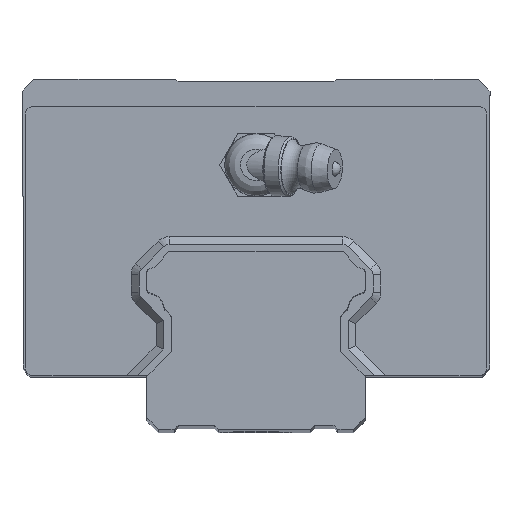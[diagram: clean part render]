
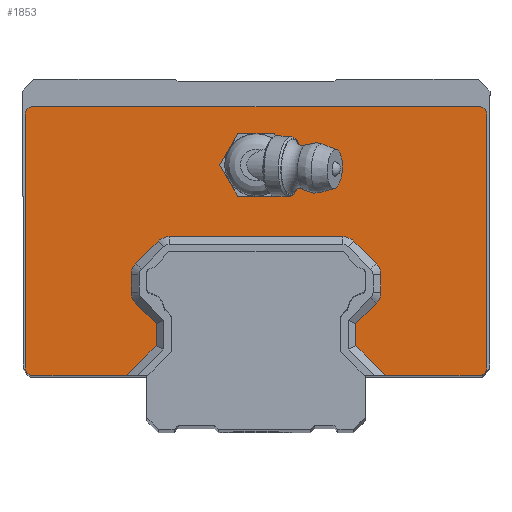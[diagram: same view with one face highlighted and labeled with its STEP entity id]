
A CAD part, top view. The second image highlights one B-rep face of the part: STEP entity #1853.
In plain terms, the highlighted planar face has unit normal (0, 0, 1).
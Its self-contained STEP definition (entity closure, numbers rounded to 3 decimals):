
#1613=CARTESIAN_POINT('',(3.,14.95,52.462));
#1614=VERTEX_POINT('',#1613);
#1615=CARTESIAN_POINT('',(0.,14.95,52.462));
#1616=DIRECTION('',(0.0,0.0,1.0));
#1617=DIRECTION('',(1.0,0.0,0.0));
#1618=AXIS2_PLACEMENT_3D('',#1615,#1616,#1617);
#1619=CIRCLE('',#1618,3.);
#1620=EDGE_CURVE('',#1614,#1614,#1619,.T.);
#1625=CARTESIAN_POINT('',(0.,-48.237,52.462));
#1626=DIRECTION('',(0.0,0.0,1.0));
#1627=DIRECTION('',(1.0,0.0,0.0));
#1628=AXIS2_PLACEMENT_3D('',#1625,#1626,#1627);
#1629=PLANE('',#1628);
#1630=CARTESIAN_POINT('',(-28.6,-12.05,52.462));
#1631=VERTEX_POINT('',#1630);
#1632=CARTESIAN_POINT('',(-16.628,-12.05,52.462));
#1633=VERTEX_POINT('',#1632);
#1634=CARTESIAN_POINT('',(-28.6,-12.05,52.462));
#1635=DIRECTION('',(1.0,0.0,0.0));
#1636=VECTOR('',#1635,11.972);
#1637=LINE('',#1634,#1636);
#1638=EDGE_CURVE('',#1631,#1633,#1637,.T.);
#1639=ORIENTED_EDGE('',*,*,#1638,.T.);
#1640=CARTESIAN_POINT('',(-12.8,-8.222,52.462));
#1641=VERTEX_POINT('',#1640);
#1642=CARTESIAN_POINT('',(-16.628,-12.05,52.462));
#1643=DIRECTION('',(0.707,0.707,0.0));
#1644=VECTOR('',#1643,5.414);
#1645=LINE('',#1642,#1644);
#1646=EDGE_CURVE('',#1633,#1641,#1645,.T.);
#1647=ORIENTED_EDGE('',*,*,#1646,.T.);
#1648=CARTESIAN_POINT('',(-12.8,-5.378,52.462));
#1649=VERTEX_POINT('',#1648);
#1650=CARTESIAN_POINT('',(-12.8,-8.222,52.462));
#1651=DIRECTION('',(0.0,1.0,0.0));
#1652=VECTOR('',#1651,2.843);
#1653=LINE('',#1650,#1652);
#1654=EDGE_CURVE('',#1641,#1649,#1653,.T.);
#1655=ORIENTED_EDGE('',*,*,#1654,.T.);
#1656=CARTESIAN_POINT('',(-15.414,-2.764,52.462));
#1657=VERTEX_POINT('',#1656);
#1658=CARTESIAN_POINT('',(-12.8,-5.378,52.462));
#1659=DIRECTION('',(-0.707,0.707,0.0));
#1660=VECTOR('',#1659,3.697);
#1661=LINE('',#1658,#1660);
#1662=EDGE_CURVE('',#1649,#1657,#1661,.T.);
#1663=ORIENTED_EDGE('',*,*,#1662,.T.);
#1664=CARTESIAN_POINT('',(-16.,-1.35,52.462));
#1665=VERTEX_POINT('',#1664);
#1666=CARTESIAN_POINT('',(-14.,-1.35,52.462));
#1667=DIRECTION('',(0.0,0.0,-1.0));
#1668=DIRECTION('',(1.0,0.0,0.0));
#1669=AXIS2_PLACEMENT_3D('',#1666,#1667,#1668);
#1670=CIRCLE('',#1669,2.);
#1671=EDGE_CURVE('',#1657,#1665,#1670,.T.);
#1672=ORIENTED_EDGE('',*,*,#1671,.T.);
#1673=CARTESIAN_POINT('',(-16.,0.895,52.462));
#1674=VERTEX_POINT('',#1673);
#1675=CARTESIAN_POINT('',(-16.,-1.35,52.462));
#1676=DIRECTION('',(0.,1.0,0.0));
#1677=VECTOR('',#1676,2.245);
#1678=LINE('',#1675,#1677);
#1679=EDGE_CURVE('',#1665,#1674,#1678,.T.);
#1680=ORIENTED_EDGE('',*,*,#1679,.T.);
#1681=CARTESIAN_POINT('',(-15.414,2.309,52.462));
#1682=VERTEX_POINT('',#1681);
#1683=CARTESIAN_POINT('',(-14.,0.894,52.462));
#1684=DIRECTION('',(0.0,0.0,-1.0));
#1685=DIRECTION('',(1.0,0.0,0.0));
#1686=AXIS2_PLACEMENT_3D('',#1683,#1684,#1685);
#1687=CIRCLE('',#1686,2.);
#1688=EDGE_CURVE('',#1674,#1682,#1687,.T.);
#1689=ORIENTED_EDGE('',*,*,#1688,.T.);
#1690=CARTESIAN_POINT('',(-12.559,5.164,52.462));
#1691=VERTEX_POINT('',#1690);
#1692=CARTESIAN_POINT('',(-15.414,2.309,52.462));
#1693=DIRECTION('',(0.707,0.707,0.0));
#1694=VECTOR('',#1693,4.038);
#1695=LINE('',#1692,#1694);
#1696=EDGE_CURVE('',#1682,#1691,#1695,.T.);
#1697=ORIENTED_EDGE('',*,*,#1696,.T.);
#1698=CARTESIAN_POINT('',(-11.145,5.75,52.462));
#1699=VERTEX_POINT('',#1698);
#1700=CARTESIAN_POINT('',(-11.144,3.75,52.462));
#1701=DIRECTION('',(0.0,0.0,-1.0));
#1702=DIRECTION('',(1.0,0.0,0.0));
#1703=AXIS2_PLACEMENT_3D('',#1700,#1701,#1702);
#1704=CIRCLE('',#1703,2.);
#1705=EDGE_CURVE('',#1691,#1699,#1704,.T.);
#1706=ORIENTED_EDGE('',*,*,#1705,.T.);
#1707=CARTESIAN_POINT('',(11.144,5.75,52.462));
#1708=VERTEX_POINT('',#1707);
#1709=CARTESIAN_POINT('',(-11.145,5.75,52.462));
#1710=DIRECTION('',(1.0,0.,0.0));
#1711=VECTOR('',#1710,22.289);
#1712=LINE('',#1709,#1711);
#1713=EDGE_CURVE('',#1699,#1708,#1712,.T.);
#1714=ORIENTED_EDGE('',*,*,#1713,.T.);
#1715=CARTESIAN_POINT('',(12.559,5.164,52.462));
#1716=VERTEX_POINT('',#1715);
#1717=CARTESIAN_POINT('',(11.144,3.75,52.462));
#1718=DIRECTION('',(0.0,0.0,-1.0));
#1719=DIRECTION('',(1.0,0.0,0.0));
#1720=AXIS2_PLACEMENT_3D('',#1717,#1718,#1719);
#1721=CIRCLE('',#1720,2.);
#1722=EDGE_CURVE('',#1708,#1716,#1721,.T.);
#1723=ORIENTED_EDGE('',*,*,#1722,.T.);
#1724=CARTESIAN_POINT('',(15.414,2.309,52.462));
#1725=VERTEX_POINT('',#1724);
#1726=CARTESIAN_POINT('',(12.559,5.164,52.462));
#1727=DIRECTION('',(0.707,-0.707,0.0));
#1728=VECTOR('',#1727,4.038);
#1729=LINE('',#1726,#1728);
#1730=EDGE_CURVE('',#1716,#1725,#1729,.T.);
#1731=ORIENTED_EDGE('',*,*,#1730,.T.);
#1732=CARTESIAN_POINT('',(16.,0.895,52.462));
#1733=VERTEX_POINT('',#1732);
#1734=CARTESIAN_POINT('',(14.,0.894,52.462));
#1735=DIRECTION('',(0.0,0.0,-1.0));
#1736=DIRECTION('',(1.0,0.0,0.0));
#1737=AXIS2_PLACEMENT_3D('',#1734,#1735,#1736);
#1738=CIRCLE('',#1737,2.);
#1739=EDGE_CURVE('',#1725,#1733,#1738,.T.);
#1740=ORIENTED_EDGE('',*,*,#1739,.T.);
#1741=CARTESIAN_POINT('',(16.,-1.35,52.462));
#1742=VERTEX_POINT('',#1741);
#1743=CARTESIAN_POINT('',(16.,0.895,52.462));
#1744=DIRECTION('',(0.,-1.0,0.0));
#1745=VECTOR('',#1744,2.245);
#1746=LINE('',#1743,#1745);
#1747=EDGE_CURVE('',#1733,#1742,#1746,.T.);
#1748=ORIENTED_EDGE('',*,*,#1747,.T.);
#1749=CARTESIAN_POINT('',(15.414,-2.764,52.462));
#1750=VERTEX_POINT('',#1749);
#1751=CARTESIAN_POINT('',(14.,-1.35,52.462));
#1752=DIRECTION('',(0.0,0.0,-1.0));
#1753=DIRECTION('',(1.0,0.0,0.0));
#1754=AXIS2_PLACEMENT_3D('',#1751,#1752,#1753);
#1755=CIRCLE('',#1754,2.);
#1756=EDGE_CURVE('',#1742,#1750,#1755,.T.);
#1757=ORIENTED_EDGE('',*,*,#1756,.T.);
#1758=CARTESIAN_POINT('',(12.8,-5.378,52.462));
#1759=VERTEX_POINT('',#1758);
#1760=CARTESIAN_POINT('',(15.414,-2.764,52.462));
#1761=DIRECTION('',(-0.707,-0.707,0.0));
#1762=VECTOR('',#1761,3.697);
#1763=LINE('',#1760,#1762);
#1764=EDGE_CURVE('',#1750,#1759,#1763,.T.);
#1765=ORIENTED_EDGE('',*,*,#1764,.T.);
#1766=CARTESIAN_POINT('',(12.8,-8.222,52.462));
#1767=VERTEX_POINT('',#1766);
#1768=CARTESIAN_POINT('',(12.8,-5.378,52.462));
#1769=DIRECTION('',(0.0,-1.0,0.0));
#1770=VECTOR('',#1769,2.843);
#1771=LINE('',#1768,#1770);
#1772=EDGE_CURVE('',#1759,#1767,#1771,.T.);
#1773=ORIENTED_EDGE('',*,*,#1772,.T.);
#1774=CARTESIAN_POINT('',(16.628,-12.05,52.462));
#1775=VERTEX_POINT('',#1774);
#1776=CARTESIAN_POINT('',(12.8,-8.222,52.462));
#1777=DIRECTION('',(0.707,-0.707,0.0));
#1778=VECTOR('',#1777,5.414);
#1779=LINE('',#1776,#1778);
#1780=EDGE_CURVE('',#1767,#1775,#1779,.T.);
#1781=ORIENTED_EDGE('',*,*,#1780,.T.);
#1782=CARTESIAN_POINT('',(28.6,-12.05,52.462));
#1783=VERTEX_POINT('',#1782);
#1784=CARTESIAN_POINT('',(16.628,-12.05,52.462));
#1785=DIRECTION('',(1.0,0.0,0.0));
#1786=VECTOR('',#1785,11.972);
#1787=LINE('',#1784,#1786);
#1788=EDGE_CURVE('',#1775,#1783,#1787,.T.);
#1789=ORIENTED_EDGE('',*,*,#1788,.T.);
#1790=CARTESIAN_POINT('',(29.6,-11.05,52.462));
#1791=VERTEX_POINT('',#1790);
#1792=CARTESIAN_POINT('',(28.6,-11.05,52.462));
#1793=DIRECTION('',(0.0,0.0,1.0));
#1794=DIRECTION('',(1.0,0.0,0.0));
#1795=AXIS2_PLACEMENT_3D('',#1792,#1793,#1794);
#1796=CIRCLE('',#1795,1.);
#1797=EDGE_CURVE('',#1783,#1791,#1796,.T.);
#1798=ORIENTED_EDGE('',*,*,#1797,.T.);
#1799=CARTESIAN_POINT('',(29.6,21.45,52.462));
#1800=VERTEX_POINT('',#1799);
#1801=CARTESIAN_POINT('',(29.6,-11.05,52.462));
#1802=DIRECTION('',(0.0,1.0,0.0));
#1803=VECTOR('',#1802,32.5);
#1804=LINE('',#1801,#1803);
#1805=EDGE_CURVE('',#1791,#1800,#1804,.T.);
#1806=ORIENTED_EDGE('',*,*,#1805,.T.);
#1807=CARTESIAN_POINT('',(28.6,22.45,52.462));
#1808=VERTEX_POINT('',#1807);
#1809=CARTESIAN_POINT('',(28.6,21.45,52.462));
#1810=DIRECTION('',(0.0,0.0,1.0));
#1811=DIRECTION('',(1.0,0.0,0.0));
#1812=AXIS2_PLACEMENT_3D('',#1809,#1810,#1811);
#1813=CIRCLE('',#1812,1.);
#1814=EDGE_CURVE('',#1800,#1808,#1813,.T.);
#1815=ORIENTED_EDGE('',*,*,#1814,.T.);
#1816=CARTESIAN_POINT('',(-28.6,22.45,52.462));
#1817=VERTEX_POINT('',#1816);
#1818=CARTESIAN_POINT('',(28.6,22.45,52.462));
#1819=DIRECTION('',(-1.0,0.0,0.0));
#1820=VECTOR('',#1819,57.2);
#1821=LINE('',#1818,#1820);
#1822=EDGE_CURVE('',#1808,#1817,#1821,.T.);
#1823=ORIENTED_EDGE('',*,*,#1822,.T.);
#1824=CARTESIAN_POINT('',(-29.6,21.45,52.462));
#1825=VERTEX_POINT('',#1824);
#1826=CARTESIAN_POINT('',(-28.6,21.45,52.462));
#1827=DIRECTION('',(0.0,0.0,1.0));
#1828=DIRECTION('',(1.0,0.0,0.0));
#1829=AXIS2_PLACEMENT_3D('',#1826,#1827,#1828);
#1830=CIRCLE('',#1829,1.);
#1831=EDGE_CURVE('',#1817,#1825,#1830,.T.);
#1832=ORIENTED_EDGE('',*,*,#1831,.T.);
#1833=CARTESIAN_POINT('',(-29.6,-11.05,52.462));
#1834=VERTEX_POINT('',#1833);
#1835=CARTESIAN_POINT('',(-29.6,21.45,52.462));
#1836=DIRECTION('',(0.0,-1.0,0.0));
#1837=VECTOR('',#1836,32.5);
#1838=LINE('',#1835,#1837);
#1839=EDGE_CURVE('',#1825,#1834,#1838,.T.);
#1840=ORIENTED_EDGE('',*,*,#1839,.T.);
#1841=CARTESIAN_POINT('',(-28.6,-11.05,52.462));
#1842=DIRECTION('',(0.0,0.0,1.0));
#1843=DIRECTION('',(1.0,0.0,0.0));
#1844=AXIS2_PLACEMENT_3D('',#1841,#1842,#1843);
#1845=CIRCLE('',#1844,1.);
#1846=EDGE_CURVE('',#1834,#1631,#1845,.T.);
#1847=ORIENTED_EDGE('',*,*,#1846,.T.);
#1848=EDGE_LOOP('',(#1639,#1647,#1655,#1663,#1672,#1680,#1689,#1697,#1706,#1714,#1723,#1731,#1740,#1748,#1757,#1765,#1773,#1781,#1789,#1798,#1806,#1815,#1823,#1832,#1840,#1847));
#1849=FACE_OUTER_BOUND('',#1848,.T.);
#1850=ORIENTED_EDGE('',*,*,#1620,.F.);
#1851=EDGE_LOOP('',(#1850));
#1852=FACE_BOUND('',#1851,.T.);
#1853=ADVANCED_FACE('',(#1849,#1852),#1629,.T.);
